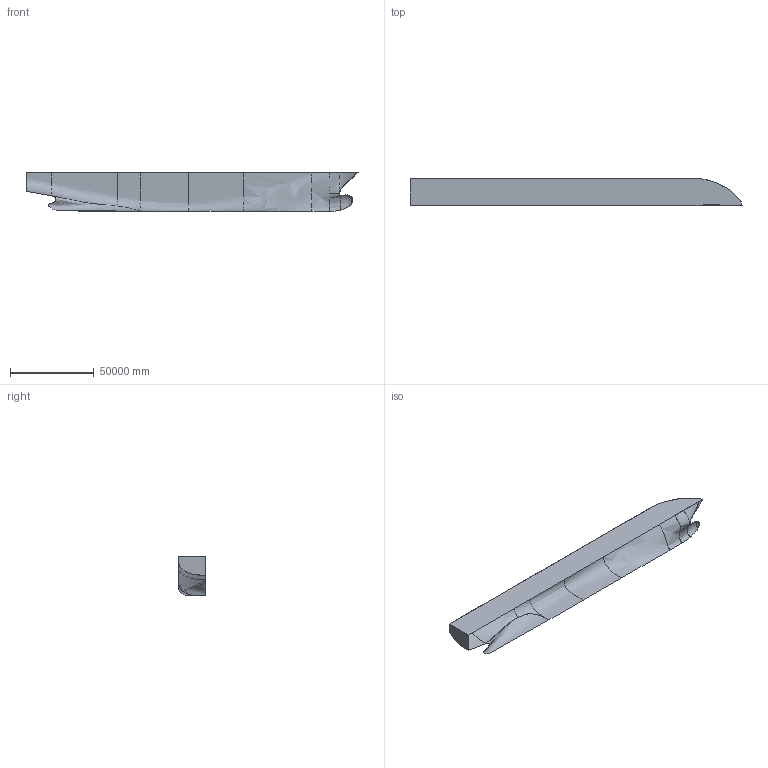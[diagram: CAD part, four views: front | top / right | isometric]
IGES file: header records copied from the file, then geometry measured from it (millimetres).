
Global section: file name: /homes/saturn/users/maschen/Desktop/Test_imp.iges; native system: HarmonyWare Translators; preprocessor: HarmonyWare IGES v1.9.13; date: 20150105.112954; units: metre
Bounding box: 198250 x 16103.01 x 23005.54 mm (x, y, z)
Surface area: 9653038794.1 mm2 (no closed solid volume)
Topology: 0 solids, 0 shells, 17 faces, 72 edges, 74 vertices
Faces by surface type: bspline 17
